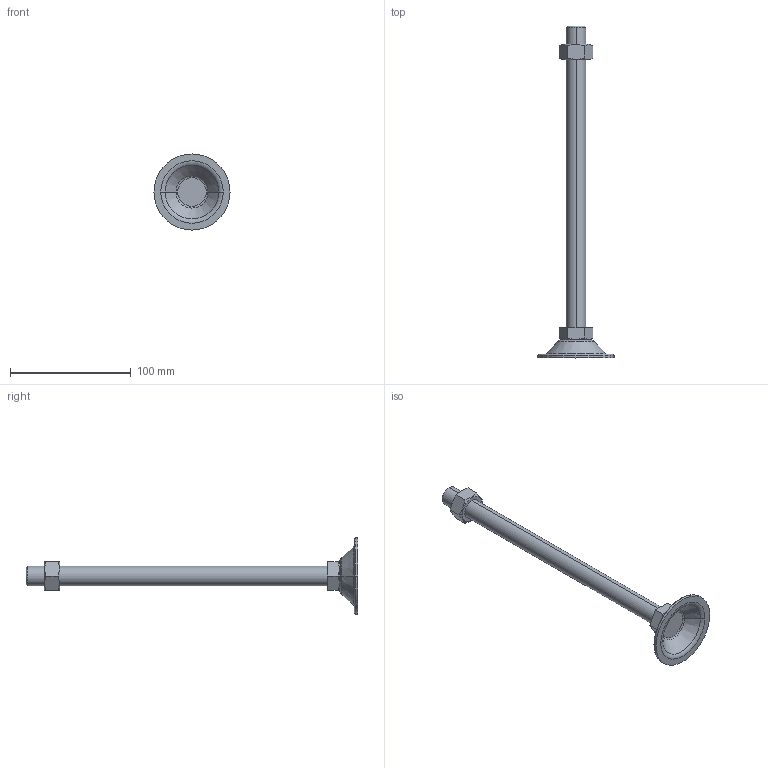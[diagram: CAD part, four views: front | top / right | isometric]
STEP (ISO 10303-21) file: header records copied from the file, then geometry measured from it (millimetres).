
FILE_DESCRIPTION (( 'STEP AP214' ), '1' );
FILE_NAME ('BL63-M16-250.step', '2021-01-06T05:39:13', ( '' ), ( '' ), 'SwSTEP 2.0', 'SolidWorks 2019', '' );
FILE_SCHEMA (( 'AUTOMOTIVE_DESIGN' ));
Length unit declared in the file: millimetre
Products named in the file (1): BL63-M16-250
Bounding box: 63 x 275 x 63 mm (x, y, z)
Volume: 70022.1 mm3; surface area: 24432.9 mm2
Topology: 3 solids, 3 shells, 53 faces, 110 edges, 66 vertices
Faces by surface type: plane 21, cone 16, torus 10, cylinder 6
Entity records: 1618 total; most frequent: CARTESIAN_POINT 428, DIRECTION 252, ORIENTED_EDGE 220, EDGE_CURVE 110, AXIS2_PLACEMENT_3D 106, VERTEX_POINT 66, EDGE_LOOP 58, ADVANCED_FACE 53
